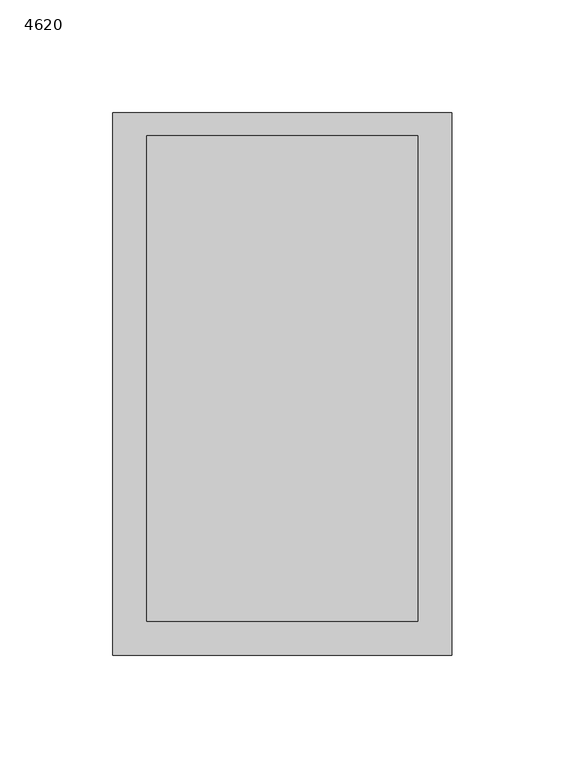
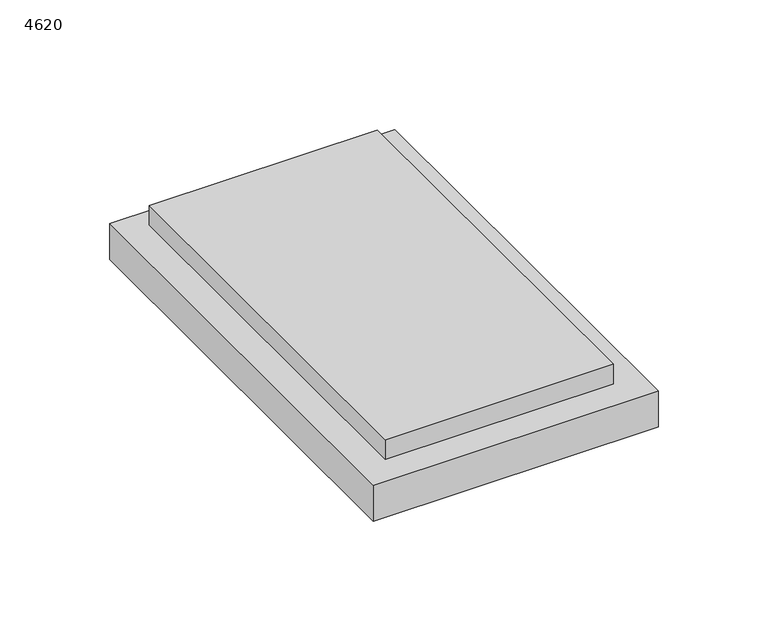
"""IFC4 building model written with IfcOpenShell, lengths in millimetres: alarm geometry, 4620_Addressable Base Station for Wireless Units : 4620."""

from ifc_helpers import new_model, si_unit, frame, origin, origin_with_axes, place, context, project, spatial, polyline, outline, extrude, source, transform, mapped, element, save


def alarm_4620_c619d2b1(model_context):
    return source(origin(), model_context, "Body", "SweptSolid", [
        extrude(outline(polyline([(60.0, 110.0), (60.0, -105.0), (-60.0, -105.0), (-60.0, 110.0), (60.0, 110.0)])), frame((0.0, 0.0, 20.0), z_axis=(0.0, 0.0, 1.0), x_axis=(1.0, 0.0, 0.0)), (0.0, 0.0, 1.0), 11.0),
        extrude(outline(polyline([(75.0, 120.0), (75.0, -120.0), (-75.0, -120.0), (-75.0, 120.0), (75.0, 120.0)])), origin_with_axes(), (0.0, 0.0, 1.0), 20.0),
    ])


if __name__ == "__main__":
    model = new_model("IFC4")
    model_context = context("Model", 3, world=origin())
    ifc_project = project(units=[si_unit("LENGTHUNIT", "METRE", prefix="MILLI")], contexts=[model_context])
    site = spatial("IfcSite", under=ifc_project)
    building = spatial("IfcBuilding", under=site)
    placement = place(None, origin())
    alarm_4620_shape = alarm_4620_c619d2b1(model_context)
    element("IfcAlarm", 1, ObjectType="4620_Addressable Base Station for Wireless Units : 4620", at=placement, inside=building, context=model_context, shape_type="MappedRepresentation", body=[
        mapped(alarm_4620_shape, transform((0.0, 0.0, 0.0), x_axis=(1.0, 0.0, 0.0), y_axis=(0.0, 1.0, 0.0), z_axis=(0.0, 0.0, 1.0))),
    ])
    save(model, "model.ifc")
